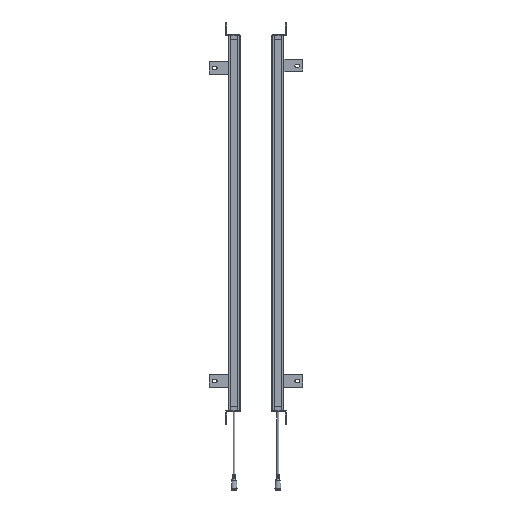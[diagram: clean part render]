
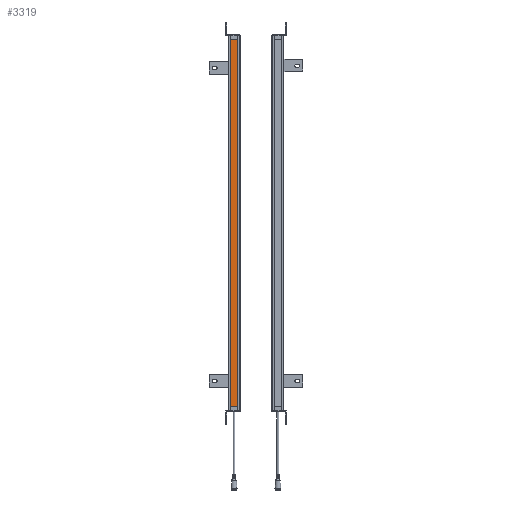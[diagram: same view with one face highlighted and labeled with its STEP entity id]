
A CAD part, left-side view. The second image highlights one B-rep face of the part: STEP entity #3319.
In plain terms, the highlighted planar face has unit normal (-1, 0, 0).
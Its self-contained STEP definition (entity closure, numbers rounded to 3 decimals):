
#1795=FACE_OUTER_BOUND('',#5986,.T.);
#3319=ADVANCED_FACE('',(#1795),#4749,.T.);
#4749=PLANE('',#29857);
#5986=EDGE_LOOP('',(#9184,#9185,#9186,#9187));
#9184=ORIENTED_EDGE('',*,*,#19383,.F.);
#9185=ORIENTED_EDGE('',*,*,#19072,.T.);
#9186=ORIENTED_EDGE('',*,*,#19385,.T.);
#9187=ORIENTED_EDGE('',*,*,#19386,.F.);
#16145=VERTEX_POINT('',#43699);
#16146=VERTEX_POINT('',#43701);
#16357=VERTEX_POINT('',#44323);
#16358=VERTEX_POINT('',#44327);
#19072=EDGE_CURVE('',#16146,#16145,#24663,.T.);
#19383=EDGE_CURVE('',#16146,#16357,#24884,.T.);
#19385=EDGE_CURVE('',#16145,#16358,#24886,.T.);
#19386=EDGE_CURVE('',#16357,#16358,#24887,.T.);
#24663=LINE('',#43700,#27142);
#24884=LINE('',#44322,#27363);
#24886=LINE('',#44326,#27365);
#24887=LINE('',#44328,#27366);
#27142=VECTOR('',#33404,1.);
#27363=VECTOR('',#34005,1.);
#27365=VECTOR('',#34009,1.);
#27366=VECTOR('',#34010,1.);
#29857=AXIS2_PLACEMENT_3D('',#44329,#34011,#34012);
#33404=DIRECTION('',(0.,1.,0.));
#34005=DIRECTION('',(0.,0.,-1.));
#34009=DIRECTION('',(0.,0.,-1.));
#34010=DIRECTION('',(0.,1.,0.));
#34011=DIRECTION('',(-1.,0.,0.));
#34012=DIRECTION('',(0.,1.,0.));
#43699=CARTESIAN_POINT('',(50.4,-5.5,838.059));
#43700=CARTESIAN_POINT('',(50.4,-5.5,838.059));
#43701=CARTESIAN_POINT('',(50.4,-23.5,838.059));
#44322=CARTESIAN_POINT('',(50.4,-23.5,103.059));
#44323=CARTESIAN_POINT('',(50.4,-23.5,-41.941));
#44326=CARTESIAN_POINT('',(50.4,-5.5,103.059));
#44327=CARTESIAN_POINT('',(50.4,-5.5,-41.941));
#44328=CARTESIAN_POINT('',(50.4,-23.5,-41.941));
#44329=CARTESIAN_POINT('',(50.4,-5.5,-61.941));
